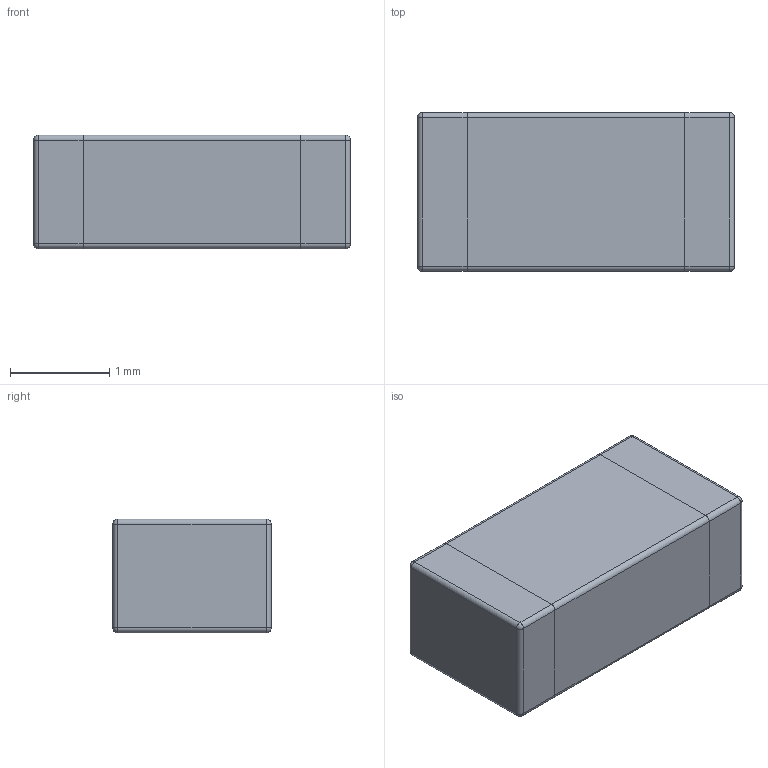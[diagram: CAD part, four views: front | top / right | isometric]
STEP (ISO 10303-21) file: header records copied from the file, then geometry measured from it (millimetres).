
FILE_DESCRIPTION (( 'STEP AP214' ), '1' );
FILE_NAME ( 'CAPC320X160X115L50.STEP', '2020-12-02T14:01:41', ( '' ), ( '' ), 'Part was generated with the free Library Expert Lite available at www.PCBLibraries.com. Removing line will violate the End User License Agreement.', '©2017 PCB Libraries, Inc.', '' );
FILE_SCHEMA (( 'AUTOMOTIVE_DESIGN' ));
Length unit declared in the file: millimetre
Products named in the file (1): CAPC320X160X115L50
Bounding box: 3.2 x 1.6 x 1.15 mm (x, y, z)
Volume: 5.9 mm3; surface area: 28.1 mm2
Topology: 3 solids, 3 shells, 46 faces, 104 edges, 56 vertices
Faces by surface type: cylinder 20, plane 18, sphere 8
Entity records: 1394 total; most frequent: DIRECTION 230, CARTESIAN_POINT 199, ORIENTED_EDGE 192, EDGE_CURVE 96, AXIS2_PLACEMENT_3D 87, VERTEX_POINT 56, VECTOR 56, LINE 56
